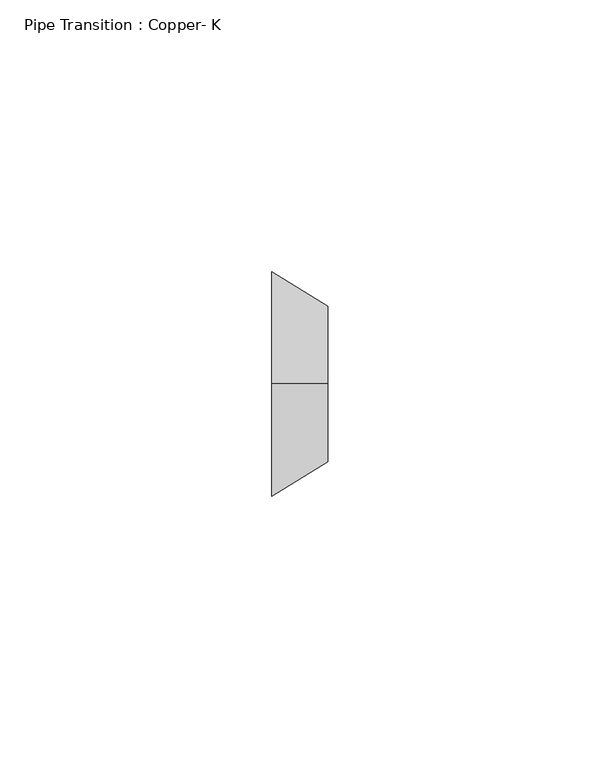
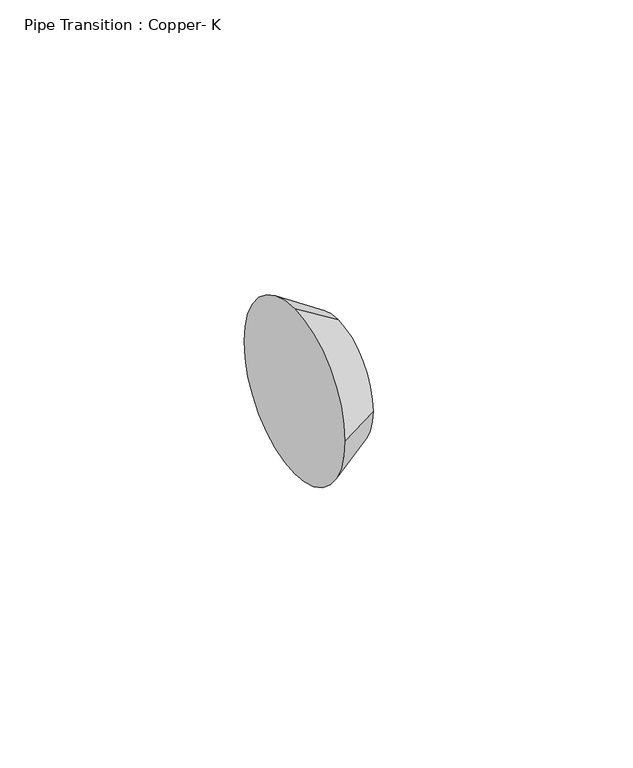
"""IFC4 building model written with IfcOpenShell, lengths in millimetres: pipe fitting geometry, Pipe Transition : Copper- K."""

from ifc_helpers import new_model, si_unit, frame, origin, place, context, project, spatial, circle_curve, source, transform, mapped, element, save
from ifc_brep_helpers import plane_surface, spline_surface, advanced_brep


def pipe_transition_copper_k_77f86d4a(model_context):
    return source(origin(), model_context, "Body", "AdvancedBrep", [
        advanced_brep(
        [(10.31875, 0.0, 14.2800293), (10.31875, -14.2875, -0.0074707), (10.31875, 0.0, -14.2949707), (10.31875, 14.2875, -0.0074707), (0.0, 0.0, 20.6375), (0.0, 20.6375, 0.0), (0.0, 0.0, -20.6375), (0.0, -20.6375, 0.0)],
        [
            (0, 1, circle_curve(frame((10.31875, 0.0, -0.0074707), z_axis=(1.0, 0.0, 0.0), x_axis=(0.0, 1.0, 0.0)), 14.2875)),
            (1, 2, circle_curve(frame((10.31875, 0.0, -0.0074707), z_axis=(1.0, 0.0, 0.0), x_axis=(0.0, 1.0, 0.0)), 14.2875)),
            (2, 3, circle_curve(frame((10.31875, 0.0, -0.0074707), z_axis=(1.0, 0.0, 0.0), x_axis=(0.0, 1.0, 0.0)), 14.2875)),
            (3, 0, circle_curve(frame((10.31875, 0.0, -0.0074707), z_axis=(1.0, 0.0, 0.0), x_axis=(0.0, 1.0, 0.0)), 14.2875)),
            (4, 5, circle_curve(frame((0.0, 0.0, 0.0), z_axis=(-1.0, 0.0, 0.0), x_axis=(0.0, 1.0, 0.0)), 20.6375)),
            (5, 6, circle_curve(frame((0.0, 0.0, 0.0), z_axis=(-1.0, 0.0, 0.0), x_axis=(0.0, 1.0, 0.0)), 20.6375)),
            (6, 7, circle_curve(frame((0.0, 0.0, 0.0), z_axis=(-1.0, 0.0, 0.0), x_axis=(0.0, 1.0, 0.0)), 20.6375)),
            (7, 4, circle_curve(frame((0.0, 0.0, 0.0), z_axis=(-1.0, 0.0, 0.0), x_axis=(0.0, 1.0, 0.0)), 20.6375)),
            (7, 1),
            (0, 4),
            (6, 2),
            (5, 3),
        ],
        [
            plane_surface(frame((10.31875, 0.0, -0.0074707), z_axis=(1.0, 0.0, 0.0), x_axis=(0.0, -1.0, 0.0))),
            plane_surface(frame((0.0, 0.0, 0.0), z_axis=(-1.0, 0.0, 0.0), x_axis=(0.0, -1.0, 0.0))),
            spline_surface(2, 1, [[(0.0, 0.0, 20.6375), (10.31875, 0.0, 14.2800293)], [(0.0, -20.6375, 20.6375), (10.31875, -14.287500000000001, 14.2800293)], [(0.0, -20.6375, 0.0), (10.31875, -14.2875, -0.0074707)]], [3, 3], [2, 2], [0.0, 1.0], [0.0, 1.0], weights=[[1.0, 1.0], [0.7071067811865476, 0.7071067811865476], [1.0, 1.0]]),
            spline_surface(2, 1, [[(0.0, -20.6375, 0.0), (10.31875, -14.2875, -0.0074707)], [(0.0, -20.6375, -20.6375), (10.31875, -14.2875, -14.2949707)], [(0.0, 0.0, -20.6375), (10.31875, 0.0, -14.2949707)]], [3, 3], [2, 2], [0.0, 1.0], [0.0, 1.0], weights=[[1.0, 1.0], [0.7071067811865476, 0.7071067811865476], [1.0, 1.0]]),
            spline_surface(2, 1, [[(0.0, 0.0, -20.6375), (10.31875, 0.0, -14.2949707)], [(0.0, 20.6375, -20.6375), (10.31875, 14.2875, -14.2949707)], [(0.0, 20.6375, 0.0), (10.31875, 14.2875, -0.0074707)]], [3, 3], [2, 2], [0.0, 1.0], [0.0, 1.0], weights=[[1.0, 1.0], [0.7071067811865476, 0.7071067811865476], [1.0, 1.0]]),
            spline_surface(2, 1, [[(0.0, 20.6375, 0.0), (10.31875, 14.2875, -0.0074707)], [(0.0, 20.6375, 20.6375), (10.31875, 14.2875, 14.280029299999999)], [(0.0, 0.0, 20.6375), (10.31875, 0.0, 14.2800293)]], [3, 3], [2, 2], [0.0, 1.0], [0.0, 1.0], weights=[[1.0, 1.0], [0.7071067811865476, 0.7071067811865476], [1.0, 1.0]]),
        ],
        [
            (0, [[1, 2, 3, 4]]),
            (1, [[5, 6, 7, 8]]),
            (2, [[-8, 9, -1, 10]]),
            (3, [[-7, 11, -2, -9]]),
            (4, [[-6, 12, -3, -11]]),
            (5, [[-5, -10, -4, -12]]),
        ],
    ),
        advanced_brep(
        [(10.31875, 0.0, 14.2800293), (10.31875, -14.2875, -0.0074707), (10.31875, 0.0, -14.2949707), (10.31875, 14.2875, -0.0074707), (0.0, 0.0, 20.6375), (0.0, 20.6375, 0.0), (0.0, 0.0, -20.6375), (0.0, -20.6375, 0.0)],
        [
            (0, 1, circle_curve(frame((10.31875, 0.0, -0.0074707), z_axis=(1.0, 0.0, 0.0), x_axis=(0.0, 1.0, 0.0)), 14.2875)),
            (1, 2, circle_curve(frame((10.31875, 0.0, -0.0074707), z_axis=(1.0, 0.0, 0.0), x_axis=(0.0, 1.0, 0.0)), 14.2875)),
            (2, 3, circle_curve(frame((10.31875, 0.0, -0.0074707), z_axis=(1.0, 0.0, 0.0), x_axis=(0.0, 1.0, 0.0)), 14.2875)),
            (3, 0, circle_curve(frame((10.31875, 0.0, -0.0074707), z_axis=(1.0, 0.0, 0.0), x_axis=(0.0, 1.0, 0.0)), 14.2875)),
            (4, 5, circle_curve(frame((0.0, 0.0, 0.0), z_axis=(-1.0, 0.0, 0.0), x_axis=(0.0, 1.0, 0.0)), 20.6375)),
            (5, 6, circle_curve(frame((0.0, 0.0, 0.0), z_axis=(-1.0, 0.0, 0.0), x_axis=(0.0, 1.0, 0.0)), 20.6375)),
            (6, 7, circle_curve(frame((0.0, 0.0, 0.0), z_axis=(-1.0, 0.0, 0.0), x_axis=(0.0, 1.0, 0.0)), 20.6375)),
            (7, 4, circle_curve(frame((0.0, 0.0, 0.0), z_axis=(-1.0, 0.0, 0.0), x_axis=(0.0, 1.0, 0.0)), 20.6375)),
            (7, 1),
            (0, 4),
            (6, 2),
            (5, 3),
        ],
        [
            plane_surface(frame((10.31875, 0.0, -0.0074707), z_axis=(1.0, 0.0, 0.0), x_axis=(0.0, -1.0, 0.0))),
            plane_surface(frame((0.0, 0.0, 0.0), z_axis=(-1.0, 0.0, 0.0), x_axis=(0.0, -1.0, 0.0))),
            spline_surface(2, 1, [[(0.0, 0.0, 20.6375), (10.31875, 0.0, 14.2800293)], [(0.0, -20.6375, 20.6375), (10.31875, -14.287500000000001, 14.2800293)], [(0.0, -20.6375, 0.0), (10.31875, -14.2875, -0.0074707)]], [3, 3], [2, 2], [0.0, 1.0], [0.0, 1.0], weights=[[1.0, 1.0], [0.7071067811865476, 0.7071067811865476], [1.0, 1.0]]),
            spline_surface(2, 1, [[(0.0, -20.6375, 0.0), (10.31875, -14.2875, -0.0074707)], [(0.0, -20.6375, -20.6375), (10.31875, -14.2875, -14.2949707)], [(0.0, 0.0, -20.6375), (10.31875, 0.0, -14.2949707)]], [3, 3], [2, 2], [0.0, 1.0], [0.0, 1.0], weights=[[1.0, 1.0], [0.7071067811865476, 0.7071067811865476], [1.0, 1.0]]),
            spline_surface(2, 1, [[(0.0, 0.0, -20.6375), (10.31875, 0.0, -14.2949707)], [(0.0, 20.6375, -20.6375), (10.31875, 14.2875, -14.2949707)], [(0.0, 20.6375, 0.0), (10.31875, 14.2875, -0.0074707)]], [3, 3], [2, 2], [0.0, 1.0], [0.0, 1.0], weights=[[1.0, 1.0], [0.7071067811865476, 0.7071067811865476], [1.0, 1.0]]),
            spline_surface(2, 1, [[(0.0, 20.6375, 0.0), (10.31875, 14.2875, -0.0074707)], [(0.0, 20.6375, 20.6375), (10.31875, 14.2875, 14.280029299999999)], [(0.0, 0.0, 20.6375), (10.31875, 0.0, 14.2800293)]], [3, 3], [2, 2], [0.0, 1.0], [0.0, 1.0], weights=[[1.0, 1.0], [0.7071067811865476, 0.7071067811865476], [1.0, 1.0]]),
        ],
        [
            (0, [[1, 2, 3, 4]]),
            (1, [[5, 6, 7, 8]]),
            (2, [[-8, 9, -1, 10]]),
            (3, [[-7, 11, -2, -9]]),
            (4, [[-6, 12, -3, -11]]),
            (5, [[-5, -10, -4, -12]]),
        ],
    ),
    ])


if __name__ == "__main__":
    model = new_model("IFC4")
    model_context = context("Model", 3, world=origin())
    ifc_project = project(units=[si_unit("LENGTHUNIT", "METRE", prefix="MILLI")], contexts=[model_context])
    site = spatial("IfcSite", under=ifc_project)
    building = spatial("IfcBuilding", under=site)
    placement = place(None, origin())
    pipe_transition_copper_k_shape = pipe_transition_copper_k_77f86d4a(model_context)
    element("IfcPipeFitting", 1, ObjectType="Pipe Transition : Copper- K", at=placement, inside=building, context=model_context, shape_type="MappedRepresentation", body=[
        mapped(pipe_transition_copper_k_shape, transform((0.0, 0.0, 0.0), x_axis=(1.0, 0.0, 0.0), y_axis=(0.0, 1.0, 0.0), z_axis=(0.0, 0.0, 1.0))),
    ])
    save(model, "model.ifc")
